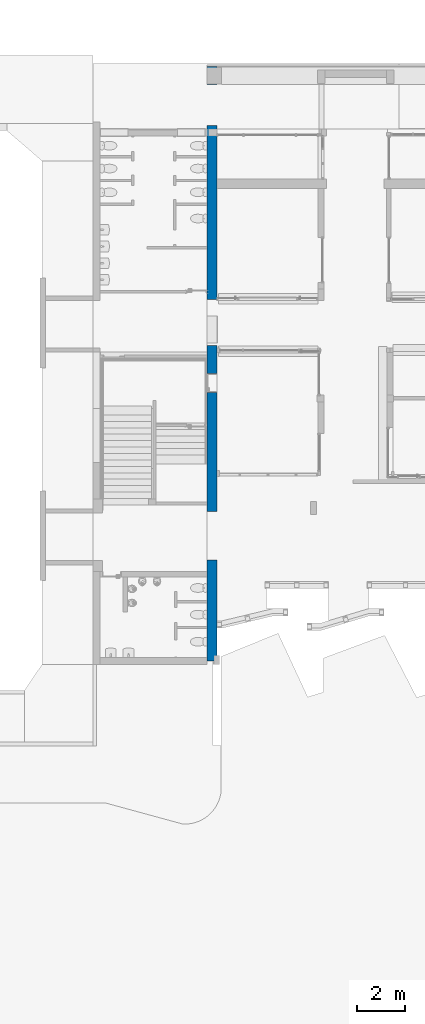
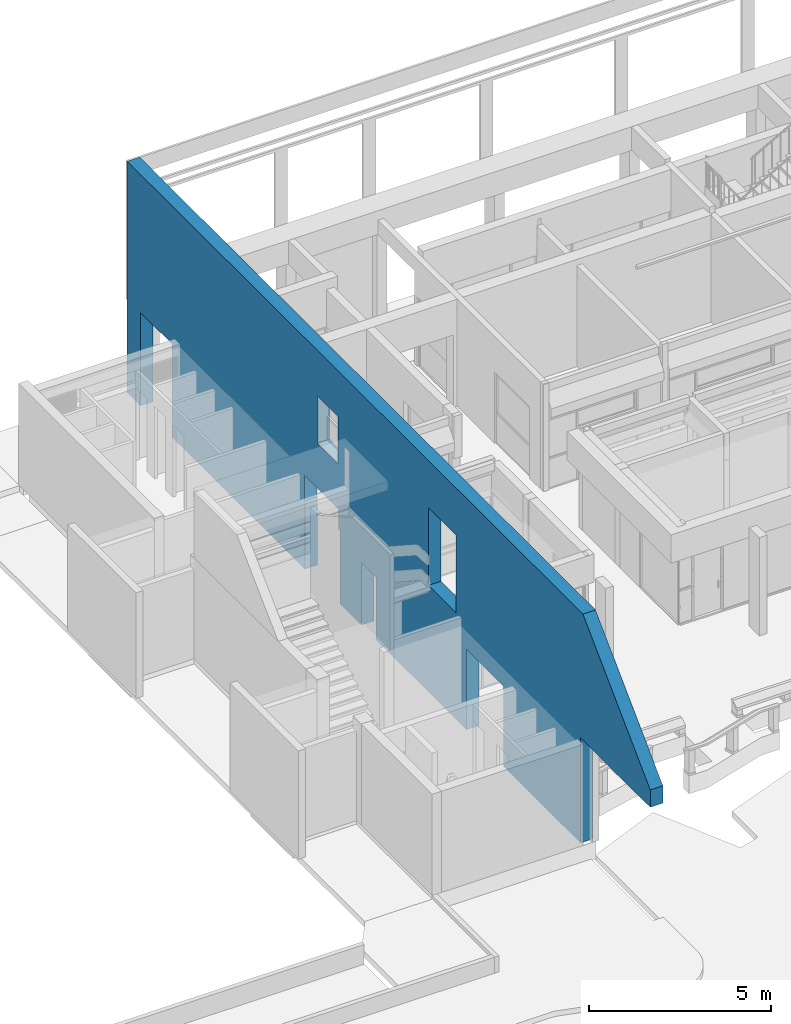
# One storey, part 79 of 117: 1 wall, 9 openings.
"""IFC4 building model written with IfcOpenShell, lengths in metres."""

from ifc_helpers import new_model, entity, si_unit, converted_unit, derived_unit, direction, frame, origin, place, context, subcontext, project, spatial, indexed_curve, outline, extrude, polygons, material, type_object, element, save


model = new_model("IFC4")

# Units and contexts
model_context = context("Model", 3, precision=1e-05, world=origin(), true_north=direction((6.123031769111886e-17, 1.0)))
body_context = subcontext(model_context, "Body", "Model", "MODEL_VIEW")
ifc_project = project(units=[si_unit("LENGTHUNIT", "METRE"), si_unit("AREAUNIT", "SQUARE_METRE"), si_unit("VOLUMEUNIT", "CUBIC_METRE"), converted_unit("PLANEANGLEUNIT", "DEGREE", entity("IfcRatioMeasure", 0.017453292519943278), si_unit("PLANEANGLEUNIT", "RADIAN"), dimensions=[0, 0, 0, 0, 0, 0, 0]), si_unit("MASSUNIT", "GRAM", prefix="KILO"), derived_unit("MASSDENSITYUNIT", [(si_unit("MASSUNIT", "GRAM", prefix="KILO"), 1), (si_unit("LENGTHUNIT", "METRE"), -3)]), derived_unit("MOMENTOFINERTIAUNIT", [(si_unit("LENGTHUNIT", "METRE"), 4)]), si_unit("TIMEUNIT", "SECOND"), si_unit("FREQUENCYUNIT", "HERTZ"), si_unit("THERMODYNAMICTEMPERATUREUNIT", "DEGREE_CELSIUS"), derived_unit("THERMALTRANSMITTANCEUNIT", [(si_unit("MASSUNIT", "GRAM", prefix="KILO"), 1), (si_unit("THERMODYNAMICTEMPERATUREUNIT", "KELVIN"), -1), (si_unit("TIMEUNIT", "SECOND"), -3)]), derived_unit("VOLUMETRICFLOWRATEUNIT", [(si_unit("LENGTHUNIT", "METRE"), 3), (si_unit("TIMEUNIT", "SECOND"), -1)]), derived_unit("MASSFLOWRATEUNIT", [(si_unit("MASSUNIT", "GRAM", prefix="KILO"), 1), (si_unit("TIMEUNIT", "SECOND"), -1)]), derived_unit("ROTATIONALFREQUENCYUNIT", [(si_unit("TIMEUNIT", "SECOND"), -1)]), si_unit("ELECTRICCURRENTUNIT", "AMPERE"), si_unit("ELECTRICVOLTAGEUNIT", "VOLT"), si_unit("POWERUNIT", "WATT"), si_unit("FORCEUNIT", "NEWTON", prefix="KILO"), si_unit("ILLUMINANCEUNIT", "LUX"), si_unit("LUMINOUSFLUXUNIT", "LUMEN"), si_unit("LUMINOUSINTENSITYUNIT", "CANDELA"), derived_unit("USERDEFINED", [(si_unit("MASSUNIT", "GRAM", prefix="KILO"), -1), (si_unit("LENGTHUNIT", "METRE"), -2), (si_unit("TIMEUNIT", "SECOND"), 3), (si_unit("LUMINOUSFLUXUNIT", "LUMEN"), 1)]), derived_unit("SOUNDPOWERUNIT", [(si_unit("MASSUNIT", "GRAM", prefix="KILO"), 1), (si_unit("LENGTHUNIT", "METRE"), 2), (si_unit("TIMEUNIT", "SECOND"), -3)]), derived_unit("SOUNDPRESSUREUNIT", [(si_unit("MASSUNIT", "GRAM", prefix="KILO"), 1), (si_unit("LENGTHUNIT", "METRE"), -1), (si_unit("TIMEUNIT", "SECOND"), -2)]), derived_unit("LINEARVELOCITYUNIT", [(si_unit("LENGTHUNIT", "METRE"), 1), (si_unit("TIMEUNIT", "SECOND"), -1)]), si_unit("PRESSUREUNIT", "PASCAL"), derived_unit("USERDEFINED", [(si_unit("LENGTHUNIT", "METRE"), -2), (si_unit("MASSUNIT", "GRAM", prefix="KILO"), 1), (si_unit("TIMEUNIT", "SECOND"), -2)]), derived_unit("LINEARFORCEUNIT", [(si_unit("MASSUNIT", "GRAM", prefix="KILO"), 1), (si_unit("LENGTHUNIT", "METRE"), 1), (si_unit("TIMEUNIT", "SECOND"), -2), (si_unit("LENGTHUNIT", "METRE"), -1)]), derived_unit("PLANARFORCEUNIT", [(si_unit("MASSUNIT", "GRAM", prefix="KILO"), 1), (si_unit("LENGTHUNIT", "METRE"), 1), (si_unit("TIMEUNIT", "SECOND"), -2), (si_unit("LENGTHUNIT", "METRE"), -2)])], contexts=[model_context])

# Site, building, storey
site_placement = place(None, origin())
site = spatial("IfcSite", under=ifc_project, at=site_placement, Name="Superficie", CompositionType="ELEMENT")
building_placement = place(site_placement, origin())
building = spatial("IfcBuilding", under=site, at=building_placement, CompositionType="ELEMENT")
storey_placement = place(building_placement, origin())
storey = spatial("IfcBuildingStorey", under=building, at=storey_placement, Name="Nivel 0", CompositionType="ELEMENT", Elevation=0.0)

# Wall, openings
ifc_material = material(Name="Muro por defecto", Category="Varios")
wall_type = type_object("IfcWallType", Name="Muro básico:Por defecto - 40 cm 2", PredefinedType="STANDARD")
wall_placement = place(storey_placement, frame((-22.843200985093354, 15.48582928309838, 0.0), z_axis=(0.0, 0.0, 1.0), x_axis=(0.0, -1.0, 0.0)))
wall = element("IfcWall", 1, at=wall_placement, inside=storey, type_object=wall_type, material=ifc_material, Name="Muro básico:Por defecto - 40 cm 2", ObjectType="Muro básico:Por defecto - 40 cm 2", PredefinedType="NOTDEFINED", context=body_context, shape_type="Tessellation", body=[
    polygons([(25.09190658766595, -0.2000000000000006, 7.77), (4.331468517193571e-15, -0.20000000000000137, 7.77), (2.1657342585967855e-15, -0.20000000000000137, 0.0), (0.7400000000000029, -0.2000000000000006, 0.0), (0.7400000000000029, -0.2000000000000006, 3.13), (2.4657407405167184, -0.19999999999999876, 3.13), (2.4657407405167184, -0.2000000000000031, 0.0), (3.7299999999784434, -0.20000000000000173, 0.0), (3.829999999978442, -0.20000000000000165, 0.0), (4.729999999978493, -0.20000000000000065, 0.0), (4.829999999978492, -0.20000000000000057, 0.0), (5.729999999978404, -0.19999999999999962, 0.0), (5.829999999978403, -0.1999999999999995, 0.0), (7.544999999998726, -0.20000000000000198, 0.0), (7.664999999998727, -0.20000000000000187, 0.0), (9.39499999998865, -0.2, 0.0), (9.514999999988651, -0.19999999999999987, 0.0), (9.784999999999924, -0.19999999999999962, 0.0), (9.784999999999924, -0.19999999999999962, 2.2878215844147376), (9.760740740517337, -0.19999999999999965, 2.2878215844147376), (9.760740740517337, -0.19999999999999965, 3.1399999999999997), (11.635740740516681, -0.20000000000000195, 3.1399999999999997), (11.635740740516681, -0.20000000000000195, 2.457236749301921), (11.71574074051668, -0.20000000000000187, 2.457236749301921), (11.71574074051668, -0.20000000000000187, 0.0), (12.11999999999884, -0.20000000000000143, 0.0), (12.239999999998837, -0.2000000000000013, 0.0), (12.890740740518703, -0.20000000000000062, 0.0), (12.890740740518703, -0.20000000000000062, 2.099999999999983), (13.690740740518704, -0.1999999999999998, 2.099999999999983), (13.690740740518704, -0.1999999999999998, 0.0), (15.004999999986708, -0.20000000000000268, 0.0), (15.12499999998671, -0.20000000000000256, 0.0), (18.28999999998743, -0.1999999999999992, 0.0), (18.40999999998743, -0.19999999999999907, 0.0), (18.69074074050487, -0.19999999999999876, 0.0), (18.69074074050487, -0.19999999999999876, 2.7), (20.720740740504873, -0.1999999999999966, 2.7), (20.720740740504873, -0.20000000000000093, 0.0), (21.209999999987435, -0.2000000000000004, 0.0), (21.429999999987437, -0.20000000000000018, 0.0), (22.429999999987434, -0.1999999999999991, 0.0), (22.52999999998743, -0.20000000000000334, 0.0), (23.509999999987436, -0.2000000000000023, 0.0), (23.60999999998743, -0.20000000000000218, 0.0), (24.809999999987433, -0.2000000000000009, 0.0), (25.109999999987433, -0.20000000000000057, 0.0), (25.109999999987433, -0.20000000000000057, 3.4), (25.109999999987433, -0.20000000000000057, 3.5272769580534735), (28.805740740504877, -0.20000000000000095, 3.5272769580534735), (28.805740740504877, -0.20000000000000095, 4.10727695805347), (16.595632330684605, -0.200000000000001, 6.18), (18.094287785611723, -0.1999999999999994, 6.18), (18.094287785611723, -0.1999999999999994, 3.58), (16.595632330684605, -0.200000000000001, 3.58), (11.600777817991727, -0.200000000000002, 6.2399999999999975), (11.600777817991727, -0.200000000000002, 4.639999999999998), (10.470777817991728, -0.2000000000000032, 4.639999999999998), (10.470777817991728, -0.2000000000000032, 6.2399999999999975), (4.331468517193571e-15, 0.19999999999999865, 7.77), (0.40000000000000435, 0.19999999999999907, 7.77), (4.754999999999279, 0.1999999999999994, 7.770000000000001), (5.114999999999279, 0.1999999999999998, 7.77), (25.09190658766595, 0.19999999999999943, 7.77), (28.805740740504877, 0.19999999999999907, 4.10727695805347), (28.805740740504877, 0.19999999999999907, 3.5272769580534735), (25.109999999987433, 0.19999999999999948, 3.5272769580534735), (25.109999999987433, 0.19999999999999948, 0.0), (20.72074074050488, 0.1999999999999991, 0.0), (20.72074074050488, 0.1999999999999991, 2.7), (18.69074074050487, 0.19999999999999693, 2.7), (18.69074074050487, 0.19999999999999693, 0.0), (17.214999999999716, 0.1999999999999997, 0.0), (16.964999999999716, 0.19999999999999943, 0.0), (13.690740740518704, 0.20000000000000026, 0.0), (13.690740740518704, 0.20000000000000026, 2.099999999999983), (12.890740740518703, 0.1999999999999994, 2.099999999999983), (12.890740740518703, 0.1999999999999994, 0.0), (11.71574074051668, 0.19999999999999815, 0.0), (11.71574074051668, 0.19999999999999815, 2.457236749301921), (11.635740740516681, 0.1999999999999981, 2.457236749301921), (11.635740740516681, 0.1999999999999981, 3.1399999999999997), (9.760740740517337, 0.2000000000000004, 3.1399999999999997), (9.760740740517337, 0.2000000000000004, 2.2878215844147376), (9.784999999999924, 0.1999999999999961, 2.2878215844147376), (9.784999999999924, 0.20000000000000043, 0.0), (5.114999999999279, 0.1999999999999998, 0.0), (4.714999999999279, 0.19999999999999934, 0.0), (2.4657407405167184, 0.19999999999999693, 0.0), (2.4657407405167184, 0.19999999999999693, 3.13), (0.7400000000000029, 0.19999999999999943, 3.13), (0.7400000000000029, 0.19999999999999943, 0.0), (4.331468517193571e-15, 0.19999999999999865, 0.0), (4.331468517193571e-15, 0.19999999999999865, 3.9199999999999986), (18.094287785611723, 0.20000000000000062, 6.18), (16.595632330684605, 0.19999999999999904, 6.18), (16.595632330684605, 0.19999999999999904, 3.58), (18.094287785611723, 0.20000000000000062, 3.58), (11.600777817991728, 0.199999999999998, 6.2399999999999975), (10.470777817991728, 0.19999999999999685, 6.2399999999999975), (10.470777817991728, 0.19999999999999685, 4.639999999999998), (11.600777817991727, 0.199999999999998, 4.639999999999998)], [[[1, 2, 3, 4, 5, 6, 7, 8, 9, 10, 11, 12, 13, 14, 15, 16, 17, 18, 19, 20, 21, 22, 23, 24, 25, 26, 27, 28, 29, 30, 31, 32, 33, 34, 35, 36, 37, 38, 39, 40, 41, 42, 43, 44, 45, 46, 47, 48, 49, 50, 51], [52, 53, 54, 55], [56, 57, 58, 59]], [[60, 61, 62, 63, 64, 65, 66, 67, 68, 69, 70, 71, 72, 73, 74, 75, 76, 77, 78, 79, 80, 81, 82, 83, 84, 85, 86, 87, 88, 89, 90, 91, 92, 93, 94], [95, 96, 97, 98], [99, 100, 101, 102]], [[77, 29, 28, 78]], [[29, 77, 76, 30]], [[30, 76, 75, 31]], [[37, 71, 70, 38]], [[71, 37, 36, 72]], [[38, 70, 69, 39]], [[80, 24, 23, 81]], [[18, 86, 85, 19]], [[24, 80, 79, 25]], [[21, 83, 82, 22]], [[84, 20, 19, 85]], [[83, 21, 20, 84]], [[22, 82, 81, 23]], [[52, 96, 95, 53]], [[54, 98, 97, 55]], [[96, 52, 55, 97]], [[53, 95, 98, 54]], [[5, 91, 90, 6]], [[6, 90, 89, 7]], [[4, 3, 93, 92]], [[2, 1, 64, 63, 62, 61, 60]], [[50, 49, 67, 66]], [[51, 50, 66, 65]], [[1, 51, 65, 64]], [[91, 5, 4, 92]], [[49, 48, 47, 68, 67]], [[3, 2, 60, 94, 93]], [[57, 56, 99, 102]], [[58, 57, 102, 101]], [[59, 58, 101, 100]], [[56, 59, 100, 99]], [[18, 17, 16, 15, 14, 13, 12, 11, 10, 9, 8, 7, 89, 88, 87, 86]], [[72, 36, 35, 34, 33, 32, 31, 75, 74, 73]], [[47, 46, 45, 44, 43, 42, 41, 40, 39, 69, 68]], [[25, 79, 78, 28, 27, 26]]], closed=True),
])
opening_1_placement = place(wall_placement, origin())
element("IfcOpeningElement", 2, at=opening_1_placement, cuts=wall, Name="Muro básico:Por defecto - 40 cm 2", PredefinedType="OPENING", context=body_context, shape_type="SweptSolid", body=[
    extrude(outline(indexed_curve([(-1.5793129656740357, -1.0150000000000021), (1.5793129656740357, -1.0150000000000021), (1.5793129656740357, 1.0150000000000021), (-1.5793129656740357, 1.0150000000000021), (-1.5793129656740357, -1.0150000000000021)], self_intersect=False)), frame((19.705740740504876, -0.19999999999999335, 1.1206870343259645), z_axis=(0.0, 1.0, 0.0), x_axis=(0.0, 0.0, -1.0)), (0.0, 0.0, 1.0), 0.3999999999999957),
])
opening_2_placement = place(wall_placement, origin())
element("IfcOpeningElement", 3, at=opening_2_placement, cuts=wall, Name="Muro básico:Por defecto - 40 cm 2", PredefinedType="OPENING", context=body_context, shape_type="SweptSolid", body=[
    extrude(outline(indexed_curve([(-1.3862167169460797, -0.9653703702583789), (1.3862167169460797, -0.9653703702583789), (1.3862167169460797, 0.9653703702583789), (-1.3862167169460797, 0.9653703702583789), (-1.3862167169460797, -0.9653703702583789)], self_intersect=False)), frame((10.750370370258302, -0.19999999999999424, 1.0710200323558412), z_axis=(0.0, 1.0, 0.0), x_axis=(0.0, 0.0, -1.0)), (0.0, 0.0, 1.0), 0.3999999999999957),
])
opening_3_placement = place(wall_placement, origin())
element("IfcOpeningElement", 4, at=opening_3_placement, cuts=wall, Name="Muro básico:Por defecto - 40 cm 2", PredefinedType="OPENING", context=body_context, shape_type="SweptSolid", body=[
    extrude(outline(indexed_curve([(-0.4260892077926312, -0.937499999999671), (0.4260892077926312, -0.937499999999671), (0.4260892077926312, 0.937499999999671), (-0.4260892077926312, 0.937499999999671), (-0.4260892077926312, -0.937499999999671)], self_intersect=False)), frame((10.698240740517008, -0.1999999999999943, 2.7139107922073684), z_axis=(0.0, 1.0, 0.0), x_axis=(0.0, 0.0, -1.0)), (0.0, 0.0, 1.0), 0.3999999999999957),
])
opening_4_placement = place(wall_placement, origin())
element("IfcOpeningElement", 5, at=opening_4_placement, cuts=wall, Name="Muro básico:Por defecto - 40 cm 2", PredefinedType="OPENING", context=body_context, shape_type="SweptSolid", body=[
    extrude(outline(indexed_curve([(-1.3, -0.7493277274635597), (1.2999999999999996, -0.7493277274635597), (1.2999999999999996, 0.7493277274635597), (-1.3, 0.7493277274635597), (-1.3, -0.7493277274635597)], self_intersect=False)), frame((17.344960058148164, -0.19999999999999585, 4.88), z_axis=(0.0, 1.0, 0.0), x_axis=(0.0, 0.0, -1.0)), (0.0, 0.0, 1.0), 0.3999999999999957),
])
opening_5_placement = place(wall_placement, origin())
element("IfcOpeningElement", 6, at=opening_5_placement, cuts=wall, Name="Muro básico:Por defecto - 40 cm 2", PredefinedType="OPENING", context=body_context, shape_type="SweptSolid", body=[
    extrude(outline(indexed_curve([(-1.6473161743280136, -0.8628703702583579), (1.6473161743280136, -0.8628703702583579), (1.6473161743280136, 0.8628703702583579), (-1.6473161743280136, 0.8628703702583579), (-1.6473161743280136, -0.8628703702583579)], self_intersect=False)), frame((1.6028703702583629, -0.19999999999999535, 1.4826838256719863), z_axis=(0.0, 1.0, 0.0), x_axis=(0.0, 0.0, -1.0)), (0.0, 0.0, 1.0), 0.3999999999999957),
])
opening_6_placement = place(wall_placement, origin())
element("IfcOpeningElement", 7, at=opening_6_placement, cuts=wall, Name="Muro básico:Por defecto - 40 cm 2", PredefinedType="OPENING", context=body_context, shape_type="SweptSolid", body=[
    extrude(outline(indexed_curve([(-0.06000000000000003, -1.0499999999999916), (0.05999999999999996, -1.0499999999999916), (0.05999999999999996, 1.0499999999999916), (-0.06000000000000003, 1.0499999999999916), (-0.06000000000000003, -1.0499999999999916)], self_intersect=False)), frame((15.06499999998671, -1.0750000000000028, 1.0499999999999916), z_axis=(0.0, 1.0, 0.0), x_axis=(-1.0, 0.0, 0.0)), (0.0, 0.0, 1.0), 0.8),
])
opening_7_placement = place(wall_placement, origin())
element("IfcOpeningElement", 8, at=opening_7_placement, cuts=wall, Name="Muro básico:Por defecto - 40 cm 2", PredefinedType="OPENING", context=body_context, shape_type="SweptSolid", body=[
    extrude(outline(indexed_curve([(-1.922870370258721, -1.7636384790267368), (1.922870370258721, -1.7636384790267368), (1.922870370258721, 1.7636384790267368), (-1.9228703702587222, 1.7636384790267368), (-1.922870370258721, -1.7636384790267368)], self_intersect=False)), frame((26.882870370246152, 0.20000000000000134, 1.7636384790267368), z_axis=(0.0, -1.0, 0.0), x_axis=(1.0, 0.0, 0.0)), (0.0, 0.0, 1.0), 0.4),
])
opening_8_placement = place(wall_placement, frame((13.690740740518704, 0.19999999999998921, 0.0)))
element("IfcOpeningElement", 9, at=opening_8_placement, cuts=wall, Name="Puerta de 1 hoja:80 x 210 cm:1", PredefinedType="OPENING", context=body_context, shape_type="SweptSolid", body=[
    extrude(outline(indexed_curve([(0.0, 0.8), (0.0, -3.540409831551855e-32), (2.099999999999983, -3.540409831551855e-32), (2.099999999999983, 0.8), (0.0, 0.8)], self_intersect=False)), frame((0.0, 0.0, 0.0), z_axis=(0.0, -1.0, 0.0), x_axis=(0.0, 0.0, 1.0)), (0.0, 0.0, 1.0), 0.4),
])
opening_9_placement = place(wall_placement, frame((10.470777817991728, -0.2000000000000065, 4.639999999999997)))
element("IfcOpeningElement", 10, at=opening_9_placement, cuts=wall, Name="Ventana de guillotina de 2 hojas:1300x 1600mm 3:1", PredefinedType="OPENING", context=body_context, shape_type="SweptSolid", body=[
    extrude(outline(indexed_curve([(1.6000000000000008, 1.1299999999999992), (0.0, 1.1299999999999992), (5.414335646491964e-16, 0.0), (1.6000000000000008, 0.0), (1.6000000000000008, 1.1299999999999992)], self_intersect=False)), frame((0.0, 0.0, 0.0), z_axis=(0.0, 1.0, 0.0), x_axis=(0.0, 0.0, 1.0)), (0.0, 0.0, 1.0), 0.4),
])

save(model, "model.ifc")
